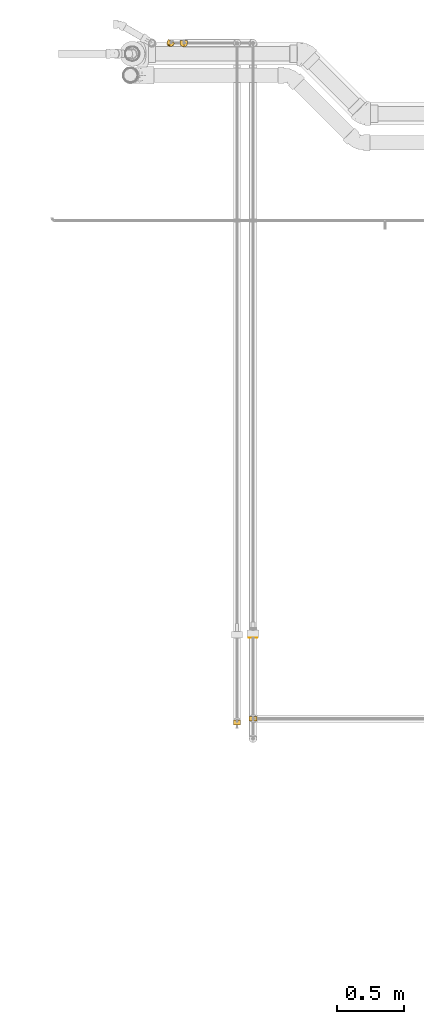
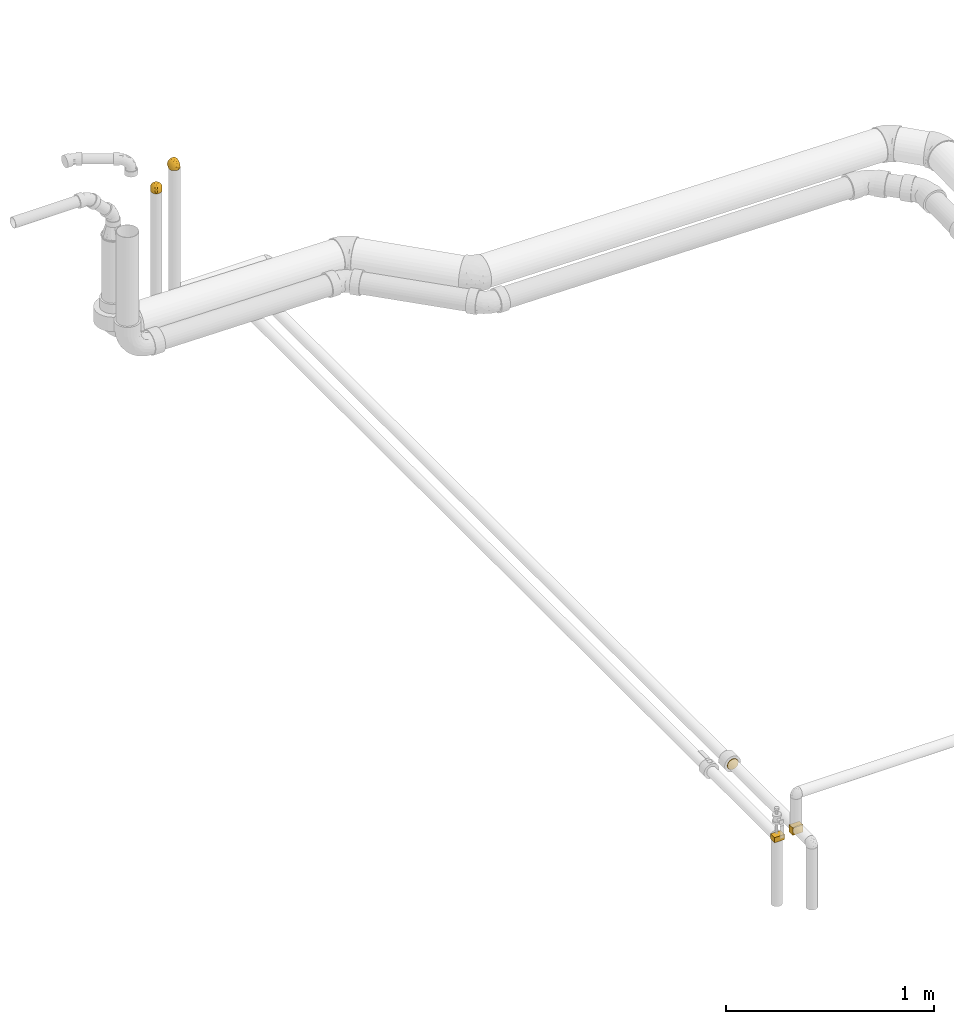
# One storey, part 14 of 78: 5 coverings.
"""IFC2X3 building model written with IfcOpenShell, lengths in millimetres."""

from ifc_helpers import new_model, entity, si_unit, converted_unit, derived_unit, direction, frame, origin_with_axes, place, context, subcontext, project, spatial, open_shell, surface_model, source, transform, mapped, element, save


model = new_model("IFC2X3")

# Units and contexts
model_context = context("Model", 3, precision=0.01, world=frame((0.0, 4.29681676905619e-09, 0.0)), true_north=direction((4.01073788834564e-13, 1.0)))
plan_context = context("Plan", 3, precision=0.01, world=frame((0.0, 4.29681676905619e-09, 0.0)), true_north=direction((4.01073788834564e-13, 1.0)))
body_context = subcontext(model_context, "Body", "Model", "MODEL_VIEW")
ifc_project = project(units=[converted_unit("PLANEANGLEUNIT", "DEGREE", entity("IfcPositiveLengthMeasure", 0.0174532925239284), si_unit("PLANEANGLEUNIT", "RADIAN"), dimensions=[0, 0, 0, 0, 0, 0, 0]), si_unit("AREAUNIT", "SQUARE_METRE"), si_unit("LENGTHUNIT", "METRE", prefix="MILLI"), si_unit("MASSUNIT", "GRAM", prefix="KILO"), si_unit("POWERUNIT", "WATT"), si_unit("PRESSUREUNIT", "PASCAL"), si_unit("FORCEUNIT", "NEWTON", prefix="KILO"), si_unit("ELECTRICVOLTAGEUNIT", "VOLT"), si_unit("ELECTRICCURRENTUNIT", "AMPERE"), si_unit("THERMODYNAMICTEMPERATUREUNIT", "DEGREE_CELSIUS"), si_unit("TIMEUNIT", "SECOND"), si_unit("VOLUMEUNIT", "CUBIC_METRE"), derived_unit("LINEARVELOCITYUNIT", [(si_unit("LENGTHUNIT", "METRE"), 1), (si_unit("TIMEUNIT", "SECOND"), -1)]), derived_unit("VOLUMETRICFLOWRATEUNIT", [(si_unit("VOLUMEUNIT", "CUBIC_METRE"), 1), (si_unit("TIMEUNIT", "SECOND"), -1)]), derived_unit("THERMALTRANSMITTANCEUNIT", [(si_unit("POWERUNIT", "WATT"), 1), (si_unit("THERMODYNAMICTEMPERATUREUNIT", "KELVIN"), -1), (si_unit("AREAUNIT", "SQUARE_METRE"), -1)]), derived_unit("SOUNDPRESSUREUNIT", [(si_unit("PRESSUREUNIT", "PASCAL"), 1)])], contexts=[model_context, plan_context])

# Site, building, storey
site_placement = place(None, frame((0.0, -4.29681676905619e-09, 0.0), z_axis=(0.0, 0.0, 1.0), x_axis=(1.0, 0.0, 0.0)))
site = spatial("IfcSite", under=ifc_project, at=site_placement, Name="ENGM", CompositionType="ELEMENT")
building_placement = place(site_placement, frame((0.0, 4.29681676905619e-09, 0.0), z_axis=(0.0, 0.0, 1.0), x_axis=(1.0, 0.0, 0.0)))
building = spatial("IfcBuilding", under=site, at=building_placement, Name="TH", CompositionType="ELEMENT")
storey_placement = place(building_placement, frame((0.0, 0.0, 205200.0), z_axis=(0.0, 0.0, 1.0), x_axis=(1.0, 0.0, 0.0)))
storey = spatial("IfcBuildingStorey", under=building, at=storey_placement, Name="Nivå D + 1,2 m", CompositionType="ELEMENT", Elevation=205200.0)

# Coverings
shared_shape_1 = source(origin_with_axes(), body_context, "Body", "SurfaceModel", [
    surface_model("IfcShellBasedSurfaceModel", [(12.58798, 17.99867, 26.12589), (18.08641, 17.99843, 22.66959), (28.27453, 17.99799, 6.44942), (22.67726, 17.99823, 18.07698), (26.1309, 17.99808, 12.57843), (-6.31647, 17.99949, 28.30358), (0.00078, 17.99922, 29.0), (6.45711, 17.99894, 28.27217), (-17.77095, 17.99999, -22.9165), (-17.77095, 17.99999, 22.9165), (-12.34027, 17.99975, 26.24307), (28.27295, 17.99799, -6.45633), (26.12668, 17.99808, -12.5872), (22.67037, 17.99823, -18.08563), (18.07776, 17.99843, -22.67648), (12.57921, 17.99867, -26.13012), (-12.35212, 17.99976, -26.23749), (-6.32926, 17.99949, -28.30072), (6.4502, 17.99894, -28.27375), (0.00078, 17.99922, -29.0), (29.00078, 17.99796, 0.0), (-17.99922, 17.77173, 22.9165), (-17.99922, 17.77173, -22.9165), (-17.99922, 12.34563, -26.24091), (-17.99922, 6.32509, -28.30182), (-17.99922, 0.0, -29.0), (-17.99922, 0.0, 29.0), (-17.99922, 12.34563, 26.24091), (-17.99922, 6.32509, 28.30182), (-17.99922, -14.5, 25.11474), (-17.99922, -7.50575, 28.01185), (-17.99922, -7.50575, -28.01185), (-17.99922, -14.5, -25.11474), (-17.99922, -28.01185, -7.50575), (-17.99922, -25.11474, -14.5), (-17.99922, -20.5061, -20.5061), (-17.99922, -28.01185, 7.50575), (-17.99922, -20.5061, 20.5061), (-17.99922, -25.11474, 14.5), (-17.99922, -29.0, 0.0), (-17.83781, 17.83858, 22.9165), (-17.83781, 17.83858, -22.9165), (-11.91359, 11.91217, -27.437), (-5.27157, 5.2718, -29.0), (-15.6371, 14.4896, -25.5229), (25.9363, 6.67664, -9.58205), (27.02383, 8.06111, 0.0), (-11.58879, -10.38291, -26.79251), (-8.72382, -16.42645, -23.00725), (-2.15077, -19.82091, -17.65408), (-10.78624, -22.3679, -17.65408), (-10.90858, -4.53654, -28.44911), (-4.56356, -7.81019, -26.79251), (1.42947, -22.15192, -11.53896), (4.08205, -22.64554, -6.52557), (-4.04793, -26.34211, -5.44068), (-6.34647, -25.25023, -11.09782), (8.70253, 11.11899, -27.37401), (12.30532, -12.14389, -15.12454), (15.68669, -5.12008, -17.84843), (18.58764, -6.20572, -13.10646), (-1.45569, 14.48332, -29.0), (20.49586, -7.02726, -7.85644), (-14.48325, 1.45632, -29.0), (17.63562, 1.45582, -19.69311), (20.97626, 0.92377, -15.43347), (14.81605, 11.64652, -24.55768), (19.28484, 8.39182, -20.51001), (12.61602, 4.58674, -24.55768), (4.16867, 4.0938, -27.82577), (3.89713, -4.58747, -25.68786), (-2.23605, -1.20823, -28.17982), (0.5703, -13.08881, -22.56783), (9.44722, -9.00206, -20.51001), (23.77715, 9.91172, -15.43347), (25.42253, 0.01247, 0.0), (15.09012, -13.36458, -8.92608), (-8.45348, 3.95385, -29.0), (-6.64626, -2.88737, -28.41951), (-11.6354, 2.6359, -29.0), (-2.91216, 10.96742, -29.0), (15.23408, -15.23474, 0.0), (20.32831, -7.61114, 0.0), (8.70408, -18.29016, -10.43904), (11.53617, -17.99036, -5.044), (5.364, -15.33569, -18.03788), (-8.06228, -27.02348, 0.0), (8.18906, 0.0284, -25.52677), (12.51046, -2.09964, -22.30333), (-4.09186, 8.11961, -29.0), (-0.01357, -25.42253, 0.0), (7.61025, -20.32864, 0.0), (-2.15315, -19.82191, 17.65408), (0.57224, -13.087, 22.56828), (-8.72455, -16.42665, 23.00725), (-4.04793, -26.3421, 5.44074), (-10.78765, -22.36815, 17.65408), (-6.34738, -25.25047, 11.09782), (25.93929, 6.67709, 9.57411), (1.43212, -22.14776, 11.54493), (-11.58879, -10.38291, 26.79251), (20.50546, -7.01494, 7.85169), (20.98138, 0.92168, 15.42467), (4.16877, 4.0842, 27.82424), (8.71003, 11.11631, 27.37123), (-2.91216, 10.96742, 29.0), (8.71055, -18.28616, 10.43745), (11.53634, -17.99058, 5.04243), (15.09872, -13.35739, 8.9221), (12.51068, -2.10559, 22.30046), (8.2029, 0.03007, 25.52113), (3.90754, -4.57014, 25.69058), (-2.23596, -1.20833, 28.17978), (-6.92474, -2.24075, 28.55296), (-4.56356, -7.81019, 26.79251), (15.69208, -5.11711, 17.84489), (9.45279, -9.00755, 20.50219), (12.31503, -12.13985, 15.11795), (23.78254, 9.91048, 15.42467), (19.29241, 8.38987, 20.50219), (14.82472, 11.64499, 24.55215), (12.62404, 4.58311, 24.55215), (17.64648, 1.45725, 19.6831), (-11.6354, 2.6359, 29.0), (-14.48325, 1.45632, 29.0), (-10.90858, -4.53654, 28.44911), (5.36971, -15.34253, 18.02671), (-1.45569, 14.48332, 29.0), (4.08226, -22.64495, 6.52738), (-5.27157, 5.2718, 29.0), (-4.09186, 8.11961, 29.0), (-8.45348, 3.95385, 29.0), (18.10753, -6.95046, 13.068), (-11.91359, 11.91217, 27.437), (-10.60795, 7.01565, 28.60662)], [open_shell([[[0, 1, 2]], [[3, 4, 2]], [[3, 2, 1]], [[0, 2, 5]], [[6, 7, 0]], [[8, 9, 10]], [[8, 10, 5]], [[6, 0, 5]], [[5, 2, 8]], [[11, 12, 2]], [[8, 12, 13]], [[8, 2, 12]], [[14, 15, 13]], [[16, 8, 17]], [[15, 8, 13]], [[18, 8, 15]], [[19, 17, 8]], [[19, 8, 18]], [[11, 2, 20]], [[21, 22, 23]], [[24, 25, 23]], [[26, 23, 25]], [[27, 21, 28]], [[21, 26, 28]], [[21, 23, 26]], [[26, 29, 30]], [[26, 25, 29]], [[31, 32, 33]], [[34, 33, 32]], [[34, 32, 35]], [[31, 33, 36]], [[37, 29, 36]], [[37, 36, 38]], [[29, 31, 36]], [[33, 39, 36]], [[31, 29, 25]], [[22, 21, 40]], [[41, 22, 40]], [[9, 8, 40]], [[41, 40, 8]], [[42, 24, 23]], [[25, 24, 43]], [[43, 24, 42]], [[42, 23, 44]], [[22, 41, 44]], [[41, 8, 16]], [[19, 43, 17]], [[16, 44, 41]], [[22, 44, 23]], [[16, 17, 42]], [[16, 42, 44]], [[43, 42, 17]], [[45, 11, 46]], [[32, 31, 47]], [[45, 12, 11]], [[48, 49, 50]], [[47, 51, 52]], [[53, 54, 55]], [[55, 33, 56]], [[15, 57, 18]], [[50, 34, 35]], [[35, 32, 48]], [[58, 59, 60]], [[34, 50, 56]], [[18, 61, 19]], [[45, 62, 60]], [[31, 25, 63]], [[64, 65, 59]], [[66, 67, 68]], [[69, 70, 71]], [[15, 66, 57]], [[66, 15, 14]], [[72, 70, 73]], [[67, 14, 13]], [[74, 67, 13]], [[62, 45, 75]], [[64, 67, 65]], [[58, 60, 76]], [[13, 12, 74]], [[49, 48, 72]], [[75, 45, 46]], [[65, 74, 45]], [[34, 56, 33]], [[77, 78, 79]], [[69, 80, 57]], [[57, 61, 18]], [[81, 62, 82]], [[69, 57, 68]], [[83, 84, 54]], [[47, 48, 32]], [[72, 73, 85]], [[53, 83, 54]], [[33, 55, 86]], [[58, 85, 73]], [[43, 69, 71]], [[70, 87, 88]], [[69, 43, 89]], [[11, 20, 46]], [[45, 74, 12]], [[67, 74, 65]], [[67, 66, 14]], [[57, 66, 68]], [[63, 51, 31]], [[48, 47, 52]], [[48, 52, 72]], [[70, 72, 52]], [[52, 51, 78]], [[88, 87, 68]], [[51, 63, 79]], [[71, 77, 43]], [[31, 51, 47]], [[71, 52, 78]], [[79, 78, 51]], [[52, 71, 70]], [[86, 55, 90]], [[86, 39, 33]], [[84, 81, 91]], [[91, 90, 54]], [[55, 54, 90]], [[76, 84, 83]], [[91, 54, 84]], [[53, 55, 56]], [[56, 49, 53]], [[85, 53, 49]], [[58, 76, 83]], [[76, 62, 81]], [[83, 53, 85]], [[59, 58, 73]], [[83, 85, 58]], [[72, 85, 49]], [[88, 59, 73]], [[60, 59, 65]], [[70, 88, 73]], [[64, 68, 67]], [[70, 69, 87]], [[69, 68, 87]], [[45, 60, 65]], [[60, 62, 76]], [[59, 88, 64]], [[68, 64, 88]], [[48, 50, 35]], [[56, 50, 49]], [[57, 80, 61]], [[62, 75, 82]], [[81, 84, 76]], [[89, 80, 69]], [[77, 71, 78]], [[92, 93, 94]], [[90, 95, 86]], [[96, 97, 92]], [[4, 98, 2]], [[38, 36, 97]], [[95, 99, 97]], [[30, 29, 100]], [[101, 98, 102]], [[103, 104, 105]], [[104, 0, 7]], [[106, 107, 108]], [[29, 37, 94]], [[109, 110, 111]], [[112, 113, 114]], [[37, 38, 96]], [[115, 116, 117]], [[102, 118, 119]], [[1, 119, 3]], [[37, 96, 94]], [[98, 4, 118]], [[98, 46, 2]], [[1, 0, 120]], [[121, 109, 122]], [[121, 104, 103]], [[104, 121, 120]], [[101, 75, 98]], [[109, 116, 115]], [[123, 124, 125]], [[117, 126, 106]], [[93, 111, 114]], [[30, 124, 26]], [[120, 119, 1]], [[81, 101, 108]], [[4, 3, 118]], [[7, 127, 104]], [[119, 118, 3]], [[101, 81, 82]], [[36, 86, 95]], [[95, 128, 99]], [[90, 91, 128]], [[106, 108, 117]], [[92, 126, 93]], [[100, 94, 114]], [[129, 103, 130]], [[112, 131, 113]], [[46, 98, 75]], [[46, 20, 2]], [[98, 118, 102]], [[104, 120, 0]], [[119, 120, 121]], [[94, 100, 29]], [[125, 30, 100]], [[111, 93, 116]], [[114, 94, 93]], [[111, 116, 109]], [[103, 129, 112]], [[112, 114, 111]], [[30, 125, 124]], [[114, 125, 100]], [[131, 112, 129]], [[125, 113, 123]], [[103, 112, 111]], [[36, 39, 86]], [[107, 128, 91]], [[36, 95, 97]], [[108, 107, 81]], [[81, 107, 91]], [[128, 107, 106]], [[128, 106, 99]], [[128, 95, 90]], [[126, 99, 106]], [[92, 97, 99]], [[103, 105, 130]], [[115, 132, 102]], [[108, 101, 132]], [[126, 117, 116]], [[132, 115, 117]], [[102, 119, 122]], [[122, 115, 102]], [[109, 121, 110]], [[121, 103, 110]], [[103, 111, 110]], [[93, 126, 116]], [[126, 92, 99]], [[108, 132, 117]], [[102, 132, 101]], [[121, 122, 119]], [[109, 115, 122]], [[97, 96, 38]], [[94, 96, 92]], [[127, 7, 6]], [[127, 105, 104]], [[82, 75, 101]], [[123, 113, 131]], [[114, 113, 125]], [[133, 27, 28]], [[21, 27, 40]], [[40, 27, 133]], [[133, 28, 134]], [[26, 129, 134]], [[129, 6, 5]], [[9, 40, 10]], [[5, 134, 129]], [[26, 134, 28]], [[5, 10, 133]], [[5, 133, 134]], [[40, 133, 10]]])]),
])
covering_1_placement = place(storey_placement, frame((899490.50163, 483351.12489, 5202.07483), z_axis=(-1.0, 0.0, 0.0), x_axis=(0.0, 0.0, 1.0)))
element("IfcCovering", 1, at=covering_1_placement, inside=storey, Name="BI20T - Cellegummi 13 mm kalde rør", PredefinedType="INSULATION", context=body_context, shape_type="MappedRepresentation", body=[
    mapped(shared_shape_1, transform((0.0, 0.0, 0.0), scale=1.0)),
])
shared_shape_2 = source(origin_with_axes(), body_context, "Body", "SurfaceModel", [
    surface_model("IfcShellBasedSurfaceModel", [(0.00378, 14.99622, 27.5), (11.93991, 14.99322, 24.77456), (17.15394, 14.99191, 21.49702), (21.50733, 14.99081, 17.14197), (-14.76499, 14.99994, -23.19771), (-5.15871, 14.99752, 27.01109), (24.78233, 14.98999, 11.92782), (6.12616, 14.99468, 26.80982), (-10.13977, 14.99878, 25.56088), (-14.76499, 14.99994, 23.19771), (26.81509, 14.98947, 6.11583), (26.81359, 14.98948, -6.12238), (21.5008, 14.99081, -17.15016), (24.77833, 14.98999, -11.93614), (11.9316, 14.99322, -24.77856), (17.14574, 14.99191, -21.50356), (-10.14759, 14.99878, -25.55777), (-5.16698, 14.99753, -27.0095), (6.11961, 14.99468, -26.81132), (0.00378, 14.99622, -27.5), (27.50377, 14.9893, 0.0), (-14.99622, 14.76876, -23.19771), (-14.99622, 10.14805, -25.55909), (-14.99622, 5.16599, -27.01042), (-14.99622, 5.16599, 27.01042), (-14.99622, -23.8157, 13.75), (-14.99622, 14.76876, 23.19771), (-14.99622, 10.14805, 25.55909), (-14.99622, -13.75, 23.8157), (-14.99622, 0.0, 27.5), (-14.99622, -7.11752, 26.56296), (-14.99622, 0.0, -27.5), (-14.99622, -13.75, -23.8157), (-14.99622, -23.8157, -13.75), (-14.99622, -19.44544, -19.44544), (-14.99622, -27.5, 0.0), (-14.99622, -26.56296, -7.11752), (-14.99622, -19.44544, 19.44544), (-14.99622, -26.56296, 7.11752), (-14.99622, -7.11752, -26.56296), (-14.83274, 14.83647, 23.19771), (-14.83274, 14.83647, -23.19771), (-9.83002, 9.83019, -26.40253), (-4.39096, 4.39206, -27.5), (-12.83577, 12.05055, -25.05125), (-4.4858, -24.01578, -10.52379), (-11.97946, 1.24936, -27.5), (-9.37372, -9.89682, -25.40669), (-8.82012, -4.4137, -26.97011), (-7.04227, 3.29405, -27.5), (-5.1688, -3.02171, -26.93885), (-9.69359, 2.19603, -27.5), (24.66115, 4.77043, -9.08643), (1.06411, -23.77998, -5.3526), (6.25069, -21.80786, 0.0), (-4.37277, -24.65393, 0.0), (1.54896, -12.70852, -21.39896), (4.32485, -4.94279, -24.35668), (9.55069, -9.1595, -19.44914), (-6.7399, -15.64833, -21.81722), (-1.24635, 11.97977, -27.5), (-8.52234, -21.24357, -16.74094), (-0.77066, -18.95792, -16.74094), (8.31964, 8.98635, -25.95811), (15.40228, -1.19191, -19.44893), (18.35405, 6.39816, -19.44914), (20.06502, -0.36998, -14.63519), (12.13794, 3.10516, -23.28745), (14.08929, 9.36237, -23.28745), (14.85425, -14.38241, -5.78201), (21.80629, -6.25618, 0.0), (14.02849, -14.03202, 0.0), (4.36917, 2.9414, -26.36681), (-1.36129, -1.61795, -26.72181), (25.07272, 5.92409, 0.0), (20.29262, -6.46488, -8.02088), (22.58653, 7.71553, -14.63519), (-2.49647, 8.96332, -27.5), (8.33232, -14.74353, -15.37448), (2.79001, -21.45991, -10.12831), (-7.0729, -26.25228, -5.18742), (15.03204, -9.43862, -13.92095), (10.00019, -3.05989, -22.48129), (8.16829, -20.09091, -4.96982), (-3.21176, -7.64046, -25.40669), (9.46723, -17.53722, -9.76499), (-4.48913, -24.01668, 10.52379), (-7.07288, -26.25228, 5.18743), (2.78868, -21.45952, 10.13067), (-0.77927, -18.96153, 16.74094), (-8.52743, -21.24448, 16.74094), (10.00616, -3.06973, 22.47382), (4.36846, 2.93289, 26.36566), (4.32968, -4.94627, 24.35361), (14.09697, 9.35812, 23.28221), (18.36063, 6.39399, 19.44173), (-1.35911, -1.6206, 26.72098), (-5.46813, -2.34777, 27.07924), (-3.21176, -7.64046, 25.40669), (15.40816, -1.19574, 19.44194), (12.14342, 3.09687, 23.28221), (-6.74252, -15.64904, 21.81722), (8.32635, 8.98224, 25.95548), (20.06713, -0.37824, 14.62684), (22.59095, 7.71075, 14.62684), (-9.37372, -9.89682, 25.40669), (-2.49647, 8.96332, 27.5), (1.54536, -12.71423, 21.39649), (20.29924, -6.45795, 8.01416), (24.66325, 4.76804, 9.0789), (-11.97946, 1.24936, 27.5), (15.03039, -9.4502, 13.91067), (-8.82012, -4.4137, 26.97011), (-1.24635, 11.97977, 27.5), (-9.69359, 2.19603, 27.5), (-7.04227, 3.29405, 27.5), (1.06405, -23.77984, 5.35336), (9.46755, -17.53574, 9.7676), (8.17006, -20.08952, 4.97084), (14.85792, -14.37799, 5.78426), (8.34035, -14.74298, 15.36777), (-4.39096, 4.39206, 27.5), (9.54676, -9.17407, 19.44173), (-9.83002, 9.83019, 26.40253), (-8.42779, 6.03279, 27.22427)], [open_shell([[[0, 1, 2]], [[3, 4, 2]], [[5, 2, 4]], [[6, 4, 3]], [[0, 7, 1]], [[4, 8, 5]], [[9, 8, 4]], [[5, 0, 2]], [[4, 6, 10]], [[10, 11, 4]], [[4, 11, 12]], [[12, 11, 13]], [[14, 12, 15]], [[16, 4, 17]], [[14, 4, 12]], [[18, 4, 14]], [[19, 17, 4]], [[19, 4, 18]], [[11, 10, 20]], [[21, 22, 23]], [[21, 23, 24]], [[25, 24, 23]], [[26, 21, 27]], [[21, 24, 27]], [[24, 28, 29]], [[28, 30, 29]], [[31, 32, 23]], [[32, 33, 23]], [[33, 25, 23]], [[33, 32, 34]], [[35, 33, 36]], [[37, 28, 25]], [[25, 35, 38]], [[28, 24, 25]], [[33, 35, 25]], [[32, 31, 39]], [[21, 26, 40]], [[41, 21, 40]], [[9, 4, 40]], [[41, 40, 4]], [[42, 23, 22]], [[31, 23, 43]], [[43, 23, 42]], [[42, 22, 44]], [[21, 41, 44]], [[41, 4, 16]], [[19, 43, 17]], [[43, 42, 17]], [[16, 44, 41]], [[16, 17, 42]], [[16, 42, 44]], [[21, 44, 22]], [[33, 45, 36]], [[39, 31, 46]], [[47, 32, 39]], [[39, 48, 47]], [[49, 50, 51]], [[13, 11, 52]], [[53, 54, 55]], [[56, 57, 58]], [[32, 59, 34]], [[18, 60, 19]], [[34, 61, 33]], [[33, 61, 45]], [[59, 62, 61]], [[14, 63, 18]], [[60, 18, 63]], [[64, 65, 66]], [[65, 15, 12]], [[67, 68, 65]], [[69, 70, 71]], [[14, 68, 63]], [[72, 57, 73]], [[11, 20, 74]], [[67, 65, 64]], [[66, 52, 75]], [[12, 13, 76]], [[62, 59, 56]], [[52, 70, 75]], [[76, 65, 12]], [[52, 76, 13]], [[66, 76, 52]], [[72, 77, 63]], [[68, 14, 15]], [[11, 74, 52]], [[72, 63, 67]], [[70, 52, 74]], [[47, 59, 32]], [[56, 58, 78]], [[62, 78, 79]], [[45, 53, 80]], [[58, 81, 78]], [[81, 66, 75]], [[64, 82, 67]], [[43, 77, 72]], [[71, 83, 69]], [[81, 58, 64]], [[53, 83, 54]], [[36, 80, 35]], [[65, 76, 66]], [[65, 68, 15]], [[63, 68, 67]], [[46, 48, 39]], [[59, 47, 84]], [[59, 84, 56]], [[57, 56, 84]], [[84, 48, 50]], [[82, 72, 67]], [[69, 81, 75]], [[83, 71, 54]], [[78, 81, 85]], [[46, 51, 48]], [[43, 73, 49]], [[84, 47, 48]], [[73, 84, 50]], [[72, 73, 43]], [[84, 73, 57]], [[80, 53, 55]], [[79, 53, 45]], [[35, 80, 55]], [[45, 80, 36]], [[81, 64, 66]], [[82, 58, 57]], [[58, 82, 64]], [[72, 82, 57]], [[79, 78, 85]], [[56, 78, 62]], [[59, 61, 34]], [[45, 61, 62]], [[62, 79, 45]], [[83, 79, 85]], [[79, 83, 53]], [[83, 85, 69]], [[81, 69, 85]], [[70, 69, 75]], [[63, 77, 60]], [[51, 50, 48]], [[49, 73, 50]], [[25, 38, 86]], [[35, 55, 87]], [[86, 88, 89]], [[86, 89, 90]], [[91, 92, 93]], [[94, 95, 2]], [[96, 97, 98]], [[99, 95, 100]], [[37, 101, 28]], [[100, 102, 92]], [[95, 103, 104]], [[105, 30, 28]], [[92, 102, 106]], [[89, 107, 101]], [[108, 70, 109]], [[30, 110, 29]], [[95, 3, 2]], [[74, 109, 70]], [[111, 108, 103]], [[109, 10, 6]], [[74, 20, 10]], [[37, 90, 101]], [[1, 94, 2]], [[110, 30, 112]], [[99, 103, 95]], [[37, 25, 90]], [[102, 1, 7]], [[93, 98, 107]], [[104, 109, 6]], [[94, 102, 100]], [[7, 113, 102]], [[6, 3, 104]], [[109, 103, 108]], [[114, 97, 115]], [[74, 10, 109]], [[55, 54, 116]], [[116, 88, 86]], [[117, 118, 119]], [[120, 117, 111]], [[89, 120, 107]], [[105, 101, 98]], [[106, 121, 92]], [[96, 115, 97]], [[103, 99, 111]], [[71, 119, 118]], [[55, 116, 87]], [[95, 104, 3]], [[109, 104, 103]], [[102, 94, 1]], [[95, 94, 100]], [[101, 105, 28]], [[112, 30, 105]], [[93, 107, 122]], [[108, 119, 70]], [[98, 101, 107]], [[122, 99, 91]], [[96, 92, 121]], [[120, 111, 122]], [[119, 111, 117]], [[110, 112, 114]], [[105, 98, 112]], [[96, 98, 93]], [[115, 96, 121]], [[112, 97, 114]], [[92, 96, 93]], [[118, 116, 54]], [[87, 86, 38]], [[86, 87, 116]], [[35, 87, 38]], [[91, 99, 100]], [[111, 99, 122]], [[92, 91, 100]], [[122, 91, 93]], [[107, 120, 122]], [[88, 120, 89]], [[86, 90, 25]], [[101, 90, 89]], [[71, 118, 54]], [[88, 118, 117]], [[70, 119, 71]], [[111, 119, 108]], [[118, 88, 116]], [[88, 117, 120]], [[113, 7, 0]], [[113, 106, 102]], [[98, 97, 112]], [[123, 27, 24]], [[26, 27, 40]], [[40, 27, 123]], [[123, 24, 124]], [[29, 121, 124]], [[121, 0, 5]], [[9, 40, 8]], [[5, 124, 121]], [[29, 124, 24]], [[5, 8, 123]], [[5, 123, 124]], [[40, 123, 8]]])]),
])
covering_2_placement = place(storey_placement, frame((899390.50163, 483351.12945, 5097.07483), z_axis=(-0.866025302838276, 0.500000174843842, 0.0), x_axis=(0.0, 0.0, 1.0)))
element("IfcCovering", 2, at=covering_2_placement, inside=storey, Name="BI16T - Rørskål m/Al.folie - VV 40mm", PredefinedType="INSULATION", context=body_context, shape_type="MappedRepresentation", body=[
    mapped(shared_shape_2, transform((0.0, 0.0, 0.0), scale=1.0)),
])
shared_shape_3 = source(origin_with_axes(), body_context, "Body", "SurfaceModel", [
    surface_model("IfcShellBasedSurfaceModel", [(2.0, 15.5, 26.84679), (2.0, -15.5, 26.84679), (2.0, -26.84679, 15.5), (2.0, 0.0, 31.0), (2.0, 26.84679, 15.5), (2.0, 31.0, 0.0), (0.0, -26.84679, 15.5), (0.0, 0.0, 31.0), (0.0, 15.5, 26.84679), (0.0, -15.5, 26.84679), (2.0, -26.84679, -15.5), (0.0, -28.92339, -7.75), (0.0, -26.84679, -15.5), (0.0, -31.0, 0.0), (2.0, -29.4455, -5.80149), (2.0, -31.0, 0.0), (2.0, -15.5, -26.84679), (0.0, -21.17339, -21.17339), (0.0, -15.5, -26.84679), (2.0, -7.75, -28.92339), (0.0, -5.80149, -29.4455), (2.0, -21.17339, -21.17339), (2.0, 0.0, -31.0), (0.0, 0.0, -31.0), (2.0, 15.5, -26.84679), (0.0, 7.75, -28.92339), (0.0, 15.5, -26.84679), (2.0, 5.80149, -29.4455), (2.0, 26.84679, -15.5), (0.0, 21.17339, -21.17339), (0.0, 26.84679, -15.5), (2.0, 28.92339, -7.75), (0.0, 29.4455, -5.80149), (2.0, 21.17339, -21.17339), (0.0, 31.0, 0.0), (0.0, 28.92339, 7.75), (0.0, 26.84679, 15.5), (2.0, 29.4455, 5.80149), (0.0, 21.17339, 21.17339), (2.0, 7.75, 28.92339), (0.0, 5.80149, 29.4455), (2.0, 21.17339, 21.17339), (0.0, -7.75, 28.92339), (2.0, -5.80149, 29.4455), (0.0, -21.17339, 21.17339), (2.0, -28.92339, 7.75), (0.0, -29.4455, 5.80149), (2.0, -21.17339, 21.17339)], [open_shell([[[0, 1, 2]], [[1, 0, 3]], [[4, 0, 5]], [[6, 7, 8]], [[7, 6, 9]], [[10, 11, 12]], [[13, 14, 15]], [[14, 13, 11]], [[16, 17, 18]], [[18, 19, 16]], [[19, 18, 20]], [[17, 16, 21]], [[20, 22, 19]], [[21, 10, 12]], [[21, 12, 17]], [[20, 23, 22]], [[10, 14, 11]], [[24, 25, 26]], [[23, 27, 22]], [[27, 23, 25]], [[28, 29, 30]], [[30, 31, 28]], [[31, 30, 32]], [[29, 28, 33]], [[32, 5, 31]], [[33, 24, 26]], [[33, 26, 29]], [[32, 34, 5]], [[24, 27, 25]], [[4, 35, 36]], [[34, 37, 5]], [[37, 34, 35]], [[0, 38, 8]], [[8, 39, 0]], [[39, 8, 40]], [[38, 0, 41]], [[40, 3, 39]], [[41, 4, 36]], [[41, 36, 38]], [[40, 7, 3]], [[4, 37, 35]], [[1, 42, 9]], [[7, 43, 3]], [[43, 7, 42]], [[2, 44, 6]], [[6, 45, 2]], [[45, 6, 46]], [[44, 2, 47]], [[46, 15, 45]], [[47, 1, 9]], [[47, 9, 44]], [[46, 13, 15]], [[1, 43, 42]], [[34, 6, 8]], [[13, 6, 12]], [[34, 8, 36]], [[6, 30, 18]], [[18, 30, 26]], [[18, 12, 6]], [[18, 26, 23]], [[6, 34, 30]], [[24, 16, 22]], [[5, 24, 28]], [[24, 5, 16]], [[16, 15, 10]], [[2, 5, 0]], [[2, 15, 5]], [[15, 16, 5]]])]),
])
covering_3_placement = place(storey_placement, frame((900010.50163, 478884.96045, 4210.0), z_axis=(0.0, 0.0, 1.0), x_axis=(0.0, -1.0, 0.0)))
element("IfcCovering", 3, at=covering_3_placement, inside=storey, Name="BI20T - Cellegummi 13 mm kalde rør", PredefinedType="INSULATION", context=body_context, shape_type="MappedRepresentation", body=[
    mapped(shared_shape_3, transform((0.0, 0.0, 0.0), scale=1.0)),
])
shared_shape_4 = source(origin_with_axes(), body_context, "Body", "SurfaceModel", [
    surface_model("IfcShellBasedSurfaceModel", [(-18.0, -13.5, -29.0), (18.0, -13.5, -29.0), (18.0, -13.5, 29.0), (-18.0, -13.5, 29.0), (-18.0, 29.0, 29.0), (18.0, 29.0, 29.0), (18.0, 29.0, -29.0), (-18.0, 29.0, -29.0)], [open_shell([[[0, 1, 2]], [[2, 3, 0]], [[4, 5, 6]], [[6, 7, 4]], [[2, 1, 6]], [[6, 5, 2]], [[3, 2, 5]], [[5, 4, 3]], [[0, 3, 4]], [[4, 7, 0]], [[1, 0, 7]], [[7, 6, 1]]])]),
])
covering_4_placement = place(storey_placement, frame((900010.50163, 478275.49112, 4210.0), z_axis=(-1.0, 0.0, 0.0), x_axis=(0.0, 1.0, 0.0)))
element("IfcCovering", 4, at=covering_4_placement, inside=storey, Name="BI20T - Cellegummi 13 mm kalde rør", PredefinedType="INSULATION", context=body_context, shape_type="MappedRepresentation", body=[
    mapped(shared_shape_4, transform((0.0, 0.0, 0.0), scale=1.0)),
])
shared_shape_5 = source(origin_with_axes(), body_context, "Body", "SurfaceModel", [
    surface_model("IfcShellBasedSurfaceModel", [(15.0, -11.25, -27.5), (15.0, 27.5, -27.5), (15.0, 27.5, 27.5), (15.0, -11.25, 27.5), (-15.0, -11.25, 27.5), (-15.0, 27.5, 27.5), (-15.0, 27.5, -27.5), (-15.0, -11.25, -27.5)], [open_shell([[[0, 1, 2]], [[2, 3, 0]], [[4, 5, 6]], [[6, 7, 4]], [[2, 1, 5]], [[6, 5, 1]], [[3, 2, 4]], [[5, 4, 2]], [[0, 3, 7]], [[4, 7, 3]], [[1, 0, 6]], [[7, 6, 0]]])]),
])
covering_5_placement = place(storey_placement, frame((899890.50163, 478254.37338, 4212.79203000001), z_axis=(1.0, 0.0, 0.0), x_axis=(0.0, 0.0, 1.0)))
element("IfcCovering", 5, at=covering_5_placement, inside=storey, Name="BI16T - Rørskål m/Al.folie - VV 40mm", PredefinedType="INSULATION", context=body_context, shape_type="MappedRepresentation", body=[
    mapped(shared_shape_5, transform((0.0, 0.0, 0.0), scale=1.0)),
])

save(model, "model.ifc")
